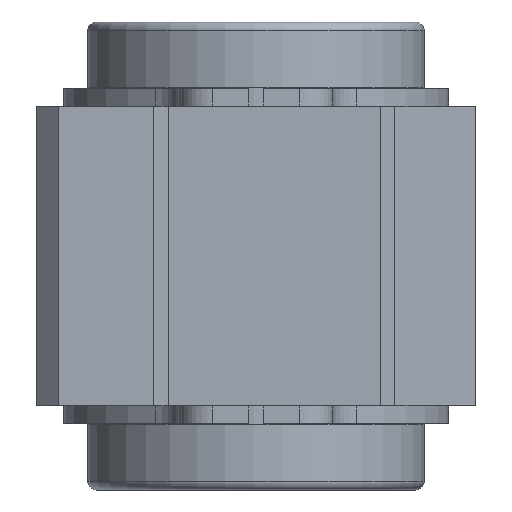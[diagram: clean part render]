
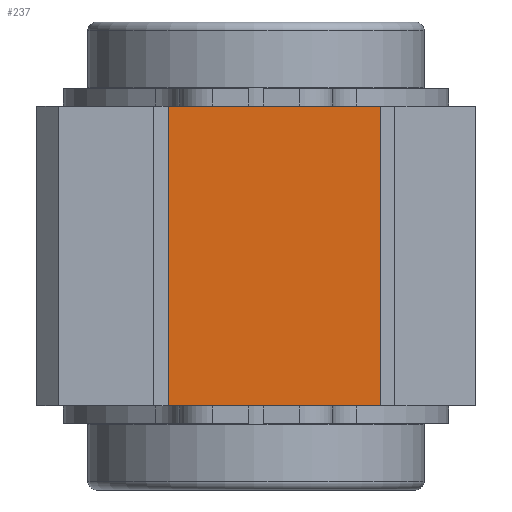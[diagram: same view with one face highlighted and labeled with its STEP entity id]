
A CAD part, left-side view. The second image highlights one B-rep face of the part: STEP entity #237.
In plain terms, the highlighted planar face has unit normal (-1, 0, 0).
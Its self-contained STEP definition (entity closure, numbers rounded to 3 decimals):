
#237=ADVANCED_FACE('',(#331),#332,.F.);
#331=FACE_OUTER_BOUND('',#506,.T.);
#332=PLANE('',#507);
#506=EDGE_LOOP('',(#803,#804,#805,#806));
#507=AXIS2_PLACEMENT_3D('',#807,#808,#809);
#803=ORIENTED_EDGE('',*,*,#1183,.T.);
#804=ORIENTED_EDGE('',*,*,#1210,.F.);
#805=ORIENTED_EDGE('',*,*,#1168,.F.);
#806=ORIENTED_EDGE('',*,*,#1211,.T.);
#807=CARTESIAN_POINT('',(-21.0,6.0,10.25));
#808=DIRECTION('',(1.0,0.0,0.0));
#809=DIRECTION('',(0.0,1.0,0.0));
#1168=EDGE_CURVE('',#1336,#1338,#1339,.T.);
#1183=EDGE_CURVE('',#1368,#1366,#1369,.T.);
#1210=EDGE_CURVE('',#1338,#1366,#1406,.T.);
#1211=EDGE_CURVE('',#1336,#1368,#1407,.T.);
#1336=VERTEX_POINT('',#1616);
#1338=VERTEX_POINT('',#1619);
#1339=LINE('',#1620,#1621);
#1366=VERTEX_POINT('',#1660);
#1368=VERTEX_POINT('',#1663);
#1369=LINE('',#1664,#1665);
#1406=LINE('',#1724,#1725);
#1407=LINE('',#1726,#1727);
#1616=CARTESIAN_POINT('',(-21.0,6.0,10.25));
#1619=CARTESIAN_POINT('',(-21.0,-8.5,10.25));
#1620=CARTESIAN_POINT('',(-21.0,6.0,10.25));
#1621=VECTOR('',#1936,1.0);
#1660=CARTESIAN_POINT('',(-21.0,-8.5,-10.25));
#1663=CARTESIAN_POINT('',(-21.0,6.0,-10.25));
#1664=CARTESIAN_POINT('',(-21.0,6.0,-10.25));
#1665=VECTOR('',#1953,1.0);
#1724=CARTESIAN_POINT('',(-21.0,-8.5,10.25));
#1725=VECTOR('',#1988,1.0);
#1726=CARTESIAN_POINT('',(-21.0,6.0,10.25));
#1727=VECTOR('',#1989,1.0);
#1936=DIRECTION('',(0.0,-1.0,0.0));
#1953=DIRECTION('',(0.0,-1.0,0.0));
#1988=DIRECTION('',(0.0,0.0,-1.0));
#1989=DIRECTION('',(0.0,0.0,-1.0));
